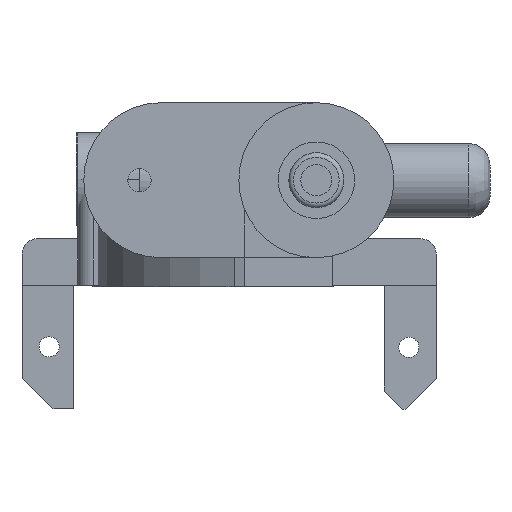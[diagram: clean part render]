
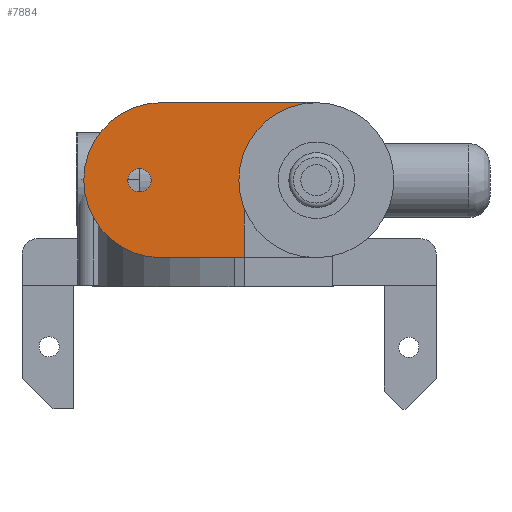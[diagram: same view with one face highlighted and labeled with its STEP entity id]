
A CAD part, left-side view. The second image highlights one B-rep face of the part: STEP entity #7884.
In plain terms, the highlighted planar face has unit normal (-1, 0, 0).
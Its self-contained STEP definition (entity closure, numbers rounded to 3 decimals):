
#853=FACE_BOUND('',#1818,.T.);
#989=PLANE('',#8388);
#1325=FACE_OUTER_BOUND('',#1817,.T.);
#1817=EDGE_LOOP('',(#6675,#6676,#6677,#6678,#6679));
#1818=EDGE_LOOP('',(#6680));
#2371=LINE('',#13479,#2924);
#2379=LINE('',#13510,#2932);
#2924=VECTOR('',#9394,10.);
#2932=VECTOR('',#9428,10.);
#3200=CIRCLE('',#8381,5.);
#3201=CIRCLE('',#8382,5.);
#3202=CIRCLE('',#8384,0.75);
#3203=CIRCLE('',#8387,5.);
#3710=VERTEX_POINT('',#13475);
#3712=VERTEX_POINT('',#13478);
#3719=VERTEX_POINT('',#13497);
#3720=VERTEX_POINT('',#13499);
#3721=VERTEX_POINT('',#13504);
#3722=VERTEX_POINT('',#13508);
#4738=EDGE_CURVE('',#3712,#3710,#2371,.T.);
#4748=EDGE_CURVE('',#3720,#3719,#3200,.T.);
#4750=EDGE_CURVE('',#3719,#3712,#3201,.T.);
#4751=EDGE_CURVE('',#3721,#3721,#3202,.T.);
#4754=EDGE_CURVE('',#3720,#3722,#2379,.F.);
#4755=EDGE_CURVE('',#3722,#3710,#3203,.T.);
#6675=ORIENTED_EDGE('',*,*,#4755,.F.);
#6676=ORIENTED_EDGE('',*,*,#4754,.F.);
#6677=ORIENTED_EDGE('',*,*,#4748,.T.);
#6678=ORIENTED_EDGE('',*,*,#4750,.T.);
#6679=ORIENTED_EDGE('',*,*,#4738,.T.);
#6680=ORIENTED_EDGE('',*,*,#4751,.T.);
#7884=ADVANCED_FACE('',(#1325,#853),#989,.F.);
#8381=AXIS2_PLACEMENT_3D('',#13500,#9415,#9416);
#8382=AXIS2_PLACEMENT_3D('',#13502,#9418,#9419);
#8384=AXIS2_PLACEMENT_3D('',#13505,#9422,#9423);
#8387=AXIS2_PLACEMENT_3D('',#13512,#9431,#9432);
#8388=AXIS2_PLACEMENT_3D('',#13513,#9433,#9434);
#9394=DIRECTION('',(0.,1.,0.));
#9415=DIRECTION('center_axis',(1.,0.,0.));
#9416=DIRECTION('ref_axis',(0.,-1.,0.));
#9418=DIRECTION('center_axis',(1.,0.,0.));
#9419=DIRECTION('ref_axis',(0.,-1.,0.));
#9422=DIRECTION('center_axis',(1.,0.,0.));
#9423=DIRECTION('ref_axis',(0.,1.,0.));
#9428=DIRECTION('',(0.,-1.,0.));
#9431=DIRECTION('center_axis',(1.,0.,0.));
#9432=DIRECTION('ref_axis',(0.,0.707,-0.707));
#9433=DIRECTION('center_axis',(1.,0.,0.));
#9434=DIRECTION('ref_axis',(0.,1.,0.));
#13475=CARTESIAN_POINT('',(-17.96,8.642,8.479));
#13478=CARTESIAN_POINT('',(-17.96,-1.358,8.479));
#13479=CARTESIAN_POINT('',(-17.96,2.142,8.479));
#13497=CARTESIAN_POINT('',(-17.96,3.642,3.479));
#13499=CARTESIAN_POINT('',(-17.96,-1.358,-1.521));
#13500=CARTESIAN_POINT('Origin',(-17.96,-1.358,3.479));
#13502=CARTESIAN_POINT('Origin',(-17.96,-1.358,3.479));
#13504=CARTESIAN_POINT('',(-17.96,9.299,3.479));
#13505=CARTESIAN_POINT('Origin',(-17.96,10.049,3.479));
#13508=CARTESIAN_POINT('',(-17.96,8.642,-1.521));
#13510=CARTESIAN_POINT('',(-17.96,2.142,-1.521));
#13512=CARTESIAN_POINT('Origin',(-17.96,8.642,3.479));
#13513=CARTESIAN_POINT('Origin',(-17.96,2.142,3.479));
